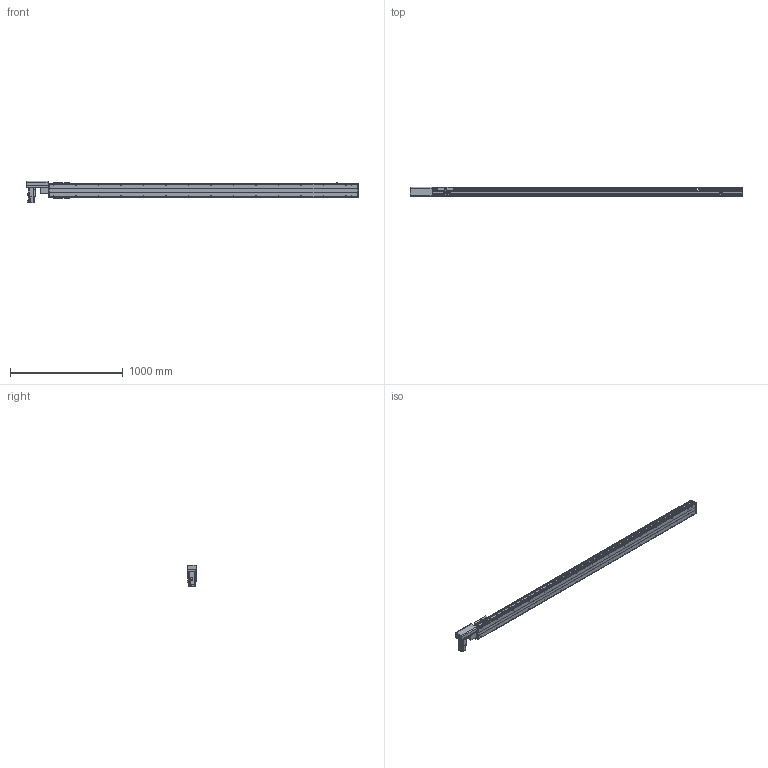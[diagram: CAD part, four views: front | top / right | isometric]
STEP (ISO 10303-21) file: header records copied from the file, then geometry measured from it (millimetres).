
FILE_DESCRIPTION( ( 'STEP AP214' ), '1' );
FILE_NAME( 'x:/temp/worker_27/temp/exporttempdir_6708_27_q9JWF/format_0/PBS120-P40-S2450-R-T40-C1-N(0).stp', '2022-06-06T00:10:20', ( 'License CC BY-ND 4.0' ), ( 'CADENAS' ), ' ', 'PARTsolutions', ' ' );
FILE_SCHEMA( ( 'AUTOMOTIVE_DESIGN { 1 0 10303 214 1 1 1 1 }' ) );
Length unit declared in the file: millimetre
Products named in the file (7): PBS120-P40-S2450-R-T40-C1-N(0); _PBS120-S2450()_body; _PBS120T-R_motors; _T40-p1; _PBS120_sliser; _PBS120_plant; _PBS120_sensor
Assembly tree (8 placements, depth 2):
  PBS120-P40-S2450-R-T40-C1-N(0)
    _PBS120-S2450()_body
    _PBS120T-R_motors
    _T40-p1
    _PBS120_sliser
    _PBS120_plant
    _PBS120_sensor  x3
Bounding box: 2951 x 83 x 189.7 mm (x, y, z)
Volume: 10680764.6 mm3; surface area: 2205240.2 mm2
Topology: 8 solids, 8 shells, 870 faces, 2226 edges, 1429 vertices
Faces by surface type: plane 563, cylinder 243, cone 62, torus 2
Full cylindrical faces by diameter (mm): 2.459 x6, 3.242 x4, 4 x2, 4.134 x4, 4.5 x10, 4.917 x34, 5.5 x11, 6 x2, 6.6 x1, 7 x2, 8.5 x4, 9 x4, 12 x1, 14 x1, 30 x2, 40 x1, 50 x2
Entity records: 28500 total; most frequent: DIRECTION 3908, CARTESIAN_POINT 3803, ORIENTED_EDGE 3586, EDGE_CURVE 1793, AXIS2_PLACEMENT_3D 1340, VERTEX_POINT 1235, LINE 1228, VECTOR 1228
